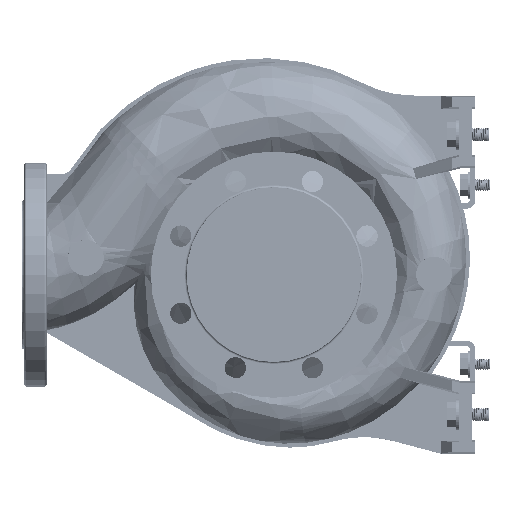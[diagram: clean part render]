
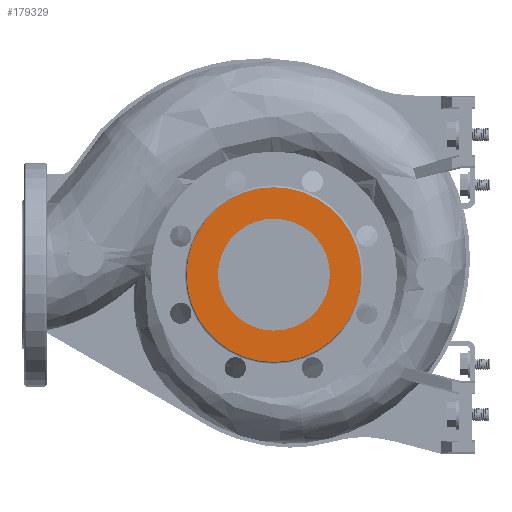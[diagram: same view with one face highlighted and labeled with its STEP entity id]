
A CAD part, left-side view. The second image highlights one B-rep face of the part: STEP entity #179329.
In plain terms, the highlighted planar face has unit normal (-1, 0, 0).
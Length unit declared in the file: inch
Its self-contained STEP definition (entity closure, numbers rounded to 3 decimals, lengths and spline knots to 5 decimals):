
#944 = CARTESIAN_POINT ( 'NONE',  ( -4.92126, -1.9685, 0. ) ) ;
#3009 = CIRCLE ( 'NONE', #166249, 1.9685 ) ;
#5858 = DIRECTION ( 'NONE',  ( 0., -1., 0. ) ) ;
#9841 = DIRECTION ( 'NONE',  ( 0., -1., 0. ) ) ;
#12455 = DIRECTION ( 'NONE',  ( -1., 0., 0. ) ) ;
#16188 = CARTESIAN_POINT ( 'NONE',  ( -4.92126, 3.07087, 0. ) ) ;
#26216 = VERTEX_POINT ( 'NONE', #93352 ) ;
#26978 = ORIENTED_EDGE ( 'NONE', *, *, #82045, .F. ) ;
#30006 = AXIS2_PLACEMENT_3D ( 'NONE', #46824, #103534, #5858 ) ;
#30417 = ORIENTED_EDGE ( 'NONE', *, *, #131900, .F. ) ;
#31069 = DIRECTION ( 'NONE',  ( 0., 0., 1. ) ) ;
#32579 = AXIS2_PLACEMENT_3D ( 'NONE', #97138, #12455, #82274 ) ;
#35511 = CIRCLE ( 'NONE', #32579, 3.07087 ) ;
#42253 = FACE_OUTER_BOUND ( 'NONE', #129166, .T. ) ;
#45212 = DIRECTION ( 'NONE',  ( 0., -1., 0. ) ) ;
#46824 = CARTESIAN_POINT ( 'NONE',  ( -4.92126, 0., 0. ) ) ;
#47268 = EDGE_LOOP ( 'NONE', ( #26978, #30417 ) ) ;
#73849 = FACE_BOUND ( 'NONE', #47268, .T. ) ;
#74979 = AXIS2_PLACEMENT_3D ( 'NONE', #137213, #83258, #9841 ) ;
#82045 = EDGE_CURVE ( 'NONE', #169897, #26216, #140398, .T. ) ;
#82274 = DIRECTION ( 'NONE',  ( 0., -1., 0. ) ) ;
#83258 = DIRECTION ( 'NONE',  ( -1., 0., 0. ) ) ;
#83278 = VERTEX_POINT ( 'NONE', #152097 ) ;
#93352 = CARTESIAN_POINT ( 'NONE',  ( -4.92126, 1.9685, 0. ) ) ;
#97138 = CARTESIAN_POINT ( 'NONE',  ( -4.92126, 0., 0. ) ) ;
#99893 = DIRECTION ( 'NONE',  ( 1., 0., 0. ) ) ;
#102863 = CARTESIAN_POINT ( 'NONE',  ( -4.92126, 0., 0. ) ) ;
#103534 = DIRECTION ( 'NONE',  ( -1., 0., 0. ) ) ;
#110245 = ORIENTED_EDGE ( 'NONE', *, *, #153198, .T. ) ;
#129166 = EDGE_LOOP ( 'NONE', ( #169589, #110245 ) ) ;
#131900 = EDGE_CURVE ( 'NONE', #26216, #169897, #3009, .T. ) ;
#137002 = CIRCLE ( 'NONE', #30006, 3.07087 ) ;
#137213 = CARTESIAN_POINT ( 'NONE',  ( -4.92126, 0., 0. ) ) ;
#140398 = CIRCLE ( 'NONE', #74979, 1.9685 ) ;
#140814 = PLANE ( 'NONE',  #167166 ) ;
#141734 = CARTESIAN_POINT ( 'NONE',  ( -4.92126, 0., 0. ) ) ;
#147449 = DIRECTION ( 'NONE',  ( -1., 0., 0. ) ) ;
#147511 = VERTEX_POINT ( 'NONE', #16188 ) ;
#152097 = CARTESIAN_POINT ( 'NONE',  ( -4.92126, -3.07087, 0. ) ) ;
#153198 = EDGE_CURVE ( 'NONE', #147511, #83278, #35511, .T. ) ;
#156116 = EDGE_CURVE ( 'NONE', #83278, #147511, #137002, .T. ) ;
#166249 = AXIS2_PLACEMENT_3D ( 'NONE', #102863, #147449, #45212 ) ;
#167166 = AXIS2_PLACEMENT_3D ( 'NONE', #141734, #99893, #31069 ) ;
#169589 = ORIENTED_EDGE ( 'NONE', *, *, #156116, .T. ) ;
#169897 = VERTEX_POINT ( 'NONE', #944 ) ;
#179329 = ADVANCED_FACE ( 'NONE', ( #42253, #73849 ), #140814, .F. ) ;
